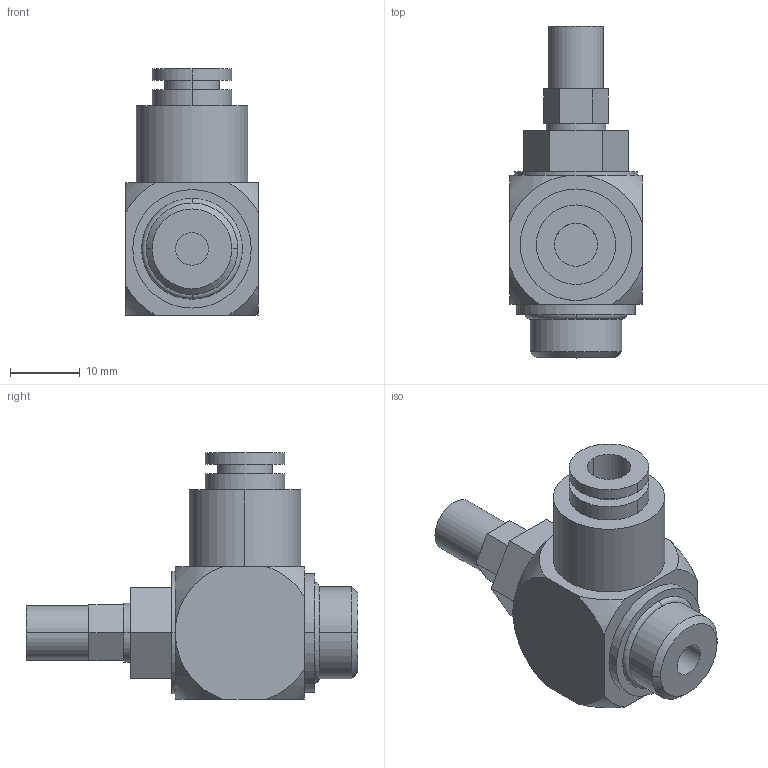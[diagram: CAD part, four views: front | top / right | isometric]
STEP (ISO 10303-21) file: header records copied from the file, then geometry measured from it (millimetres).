
FILE_DESCRIPTION((''),'2;1');
FILE_NAME('0821200245','2017-10-04T',('pug1hc'),(''),'CREO PARAMETRIC BY PTC INC, 2016260','CREO PARAMETRIC BY PTC INC, 2016260','');
FILE_SCHEMA(('CONFIG_CONTROL_DESIGN'));
Length unit declared in the file: millimetre
Products named in the file (1): 0821200245
Bounding box: 19 x 47.6 x 35.3 mm (x, y, z)
Volume: 11115.2 mm3; surface area: 4676.1 mm2
Topology: 1 solids, 2 shells, 90 faces, 202 edges, 130 vertices
Faces by surface type: plane 50, cylinder 28, bspline 8, torus 2, cone 2
Entity records: 2981 total; most frequent: CARTESIAN_POINT 894, DIRECTION 440, ORIENTED_EDGE 404, EDGE_CURVE 202, AXIS2_PLACEMENT_3D 172, VERTEX_POINT 130, EDGE_LOOP 104, VECTOR 96
